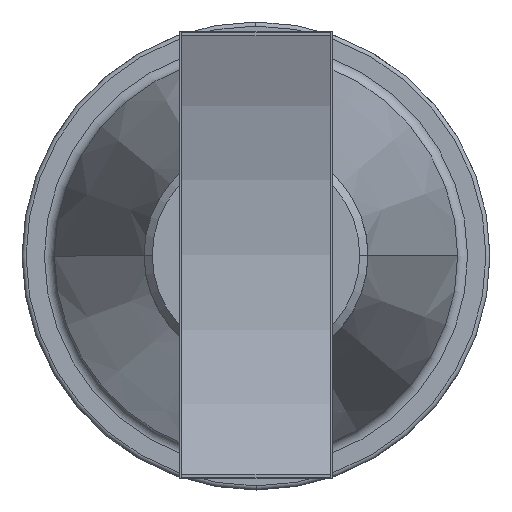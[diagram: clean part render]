
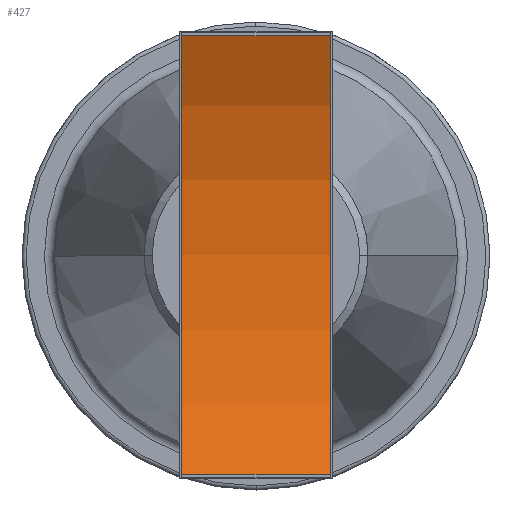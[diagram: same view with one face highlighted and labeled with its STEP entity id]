
A CAD part, top view. The second image highlights one B-rep face of the part: STEP entity #427.
In plain terms, the highlighted cylindrical face has radius 254 mm (diameter 508 mm), a partial arc.
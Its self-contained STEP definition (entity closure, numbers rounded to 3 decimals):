
#427=ADVANCED_FACE('',(#827),#828,.F.);
#827=FACE_OUTER_BOUND('',#1228,.T.);
#828=CYLINDRICAL_SURFACE('',#1229,254.);
#1228=EDGE_LOOP('',(#2233,#2234,#2235,#2236));
#1229=AXIS2_PLACEMENT_3D('',#2237,#2238,#2239);
#2233=ORIENTED_EDGE('',*,*,#2672,.T.);
#2234=ORIENTED_EDGE('',*,*,#2673,.F.);
#2235=ORIENTED_EDGE('',*,*,#2674,.T.);
#2236=ORIENTED_EDGE('',*,*,#2669,.T.);
#2237=CARTESIAN_POINT('',(442.264,562.493,392.));
#2238=DIRECTION('',(1.0,0.,0.));
#2239=DIRECTION('',(0.,1.0,0.));
#2669=EDGE_CURVE('',#3246,#3244,#3247,.T.);
#2672=EDGE_CURVE('',#3244,#3250,#3251,.T.);
#2673=EDGE_CURVE('',#3252,#3250,#3253,.T.);
#2674=EDGE_CURVE('',#3252,#3246,#3254,.T.);
#3244=VERTEX_POINT('',#4539);
#3246=VERTEX_POINT('',#4542);
#3247=LINE('',#4543,#4544);
#3250=VERTEX_POINT('',#4548);
#3251=CIRCLE('',#4549,254.);
#3252=VERTEX_POINT('',#4550);
#3253=LINE('',#4551,#4552);
#3254=CIRCLE('',#4553,254.);
#4539=CARTESIAN_POINT('',(515.264,454.715,162.));
#4542=CARTESIAN_POINT('',(442.264,454.715,162.));
#4543=CARTESIAN_POINT('',(442.264,454.715,162.));
#4544=VECTOR('',#5013,1.0);
#4548=CARTESIAN_POINT('',(515.264,670.27,162.));
#4549=AXIS2_PLACEMENT_3D('',#5015,#5016,#5017);
#4550=CARTESIAN_POINT('',(442.264,670.27,162.));
#4551=CARTESIAN_POINT('',(442.264,670.27,162.));
#4552=VECTOR('',#5018,1.0);
#4553=AXIS2_PLACEMENT_3D('',#5019,#5020,#5021);
#5013=DIRECTION('',(1.0,0.,0.));
#5015=CARTESIAN_POINT('',(515.264,562.493,392.));
#5016=DIRECTION('',(1.0,0.,0.));
#5017=DIRECTION('',(0.,1.0,0.));
#5018=DIRECTION('',(1.0,0.,0.));
#5019=CARTESIAN_POINT('',(442.264,562.493,392.));
#5020=DIRECTION('',(-1.0,0.,0.));
#5021=DIRECTION('',(0.,1.0,0.));
